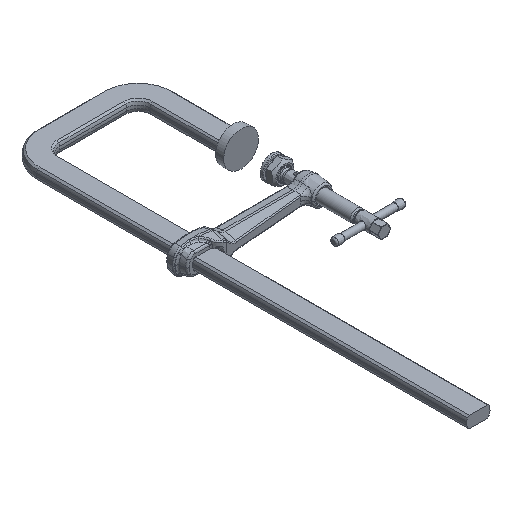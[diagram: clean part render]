
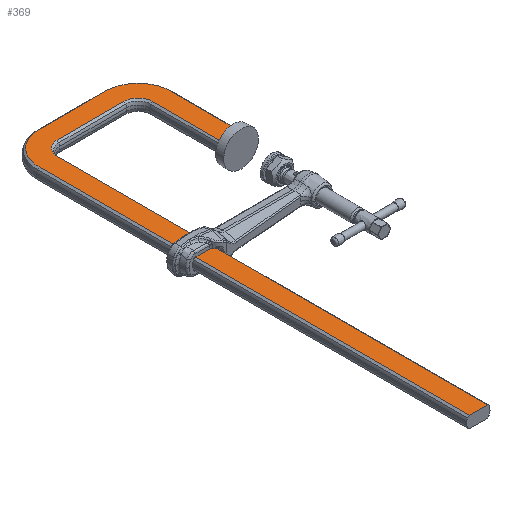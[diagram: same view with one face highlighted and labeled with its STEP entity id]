
A CAD part, isometric view. The second image highlights one B-rep face of the part: STEP entity #369.
In plain terms, the highlighted free-form (B-spline) face has degree [1, 1] with [2, 2] control points.
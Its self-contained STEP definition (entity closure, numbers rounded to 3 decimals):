
#69=CARTESIAN_POINT('',(15.561,-366.,10.));
#70=VERTEX_POINT('',#69);
#76=CARTESIAN_POINT('',(-15.561,-366.,10.));
#77=VERTEX_POINT('',#76);
#78=CARTESIAN_POINT('',(15.561,-366.,10.));
#79=CARTESIAN_POINT('',(-15.561,-366.,10.));
#80=B_SPLINE_CURVE_WITH_KNOTS('',1,(#78,#79),.POLYLINE_FORM.,.F.,.U.,(2,2),(0.028,0.158),.UNSPECIFIED.);
#81=EDGE_CURVE('',#70,#77,#80,.T.);
#266=CARTESIAN_POINT('',(179.439,256.067,10.));
#267=VERTEX_POINT('',#266);
#273=CARTESIAN_POINT('',(179.439,374.067,10.));
#274=VERTEX_POINT('',#273);
#275=CARTESIAN_POINT('',(179.439,256.067,10.));
#276=CARTESIAN_POINT('',(179.439,374.067,10.));
#277=B_SPLINE_CURVE_WITH_KNOTS('',1,(#275,#276),.POLYLINE_FORM.,.F.,.U.,(2,2),(0.041,1.),.UNSPECIFIED.);
#278=EDGE_CURVE('',#267,#274,#277,.T.);
#288=CARTESIAN_POINT('',(-22.345,-542.556,10.));
#289=CARTESIAN_POINT('',(-22.345,442.517,10.));
#290=CARTESIAN_POINT('',(217.345,-542.556,10.));
#291=CARTESIAN_POINT('',(217.345,442.517,10.));
#292=B_SPLINE_SURFACE_WITH_KNOTS('',1,1,((#288,#289),(#290,#291)),.PLANE_SURF.,.F.,.F.,.U.,(2,2),(2,2),(0.,1.),(-1.163,1.),.UNSPECIFIED.);
#293=CARTESIAN_POINT('',(155.,398.506,10.));
#294=VERTEX_POINT('',#293);
#295=CARTESIAN_POINT('',(155.,398.506,10.));
#296=CARTESIAN_POINT('',(165.123,398.506,10.));
#297=CARTESIAN_POINT('',(172.281,391.348,10.));
#298=CARTESIAN_POINT('',(179.439,384.19,10.));
#299=CARTESIAN_POINT('',(179.439,374.067,10.));
#300=(BOUNDED_CURVE()B_SPLINE_CURVE(2,(#295,#296,#297,#298,#299),.CIRCULAR_ARC.,.F.,.U.)B_SPLINE_CURVE_WITH_KNOTS((3,2,3),(0.,0.5,1.),.UNSPECIFIED.)CURVE()GEOMETRIC_REPRESENTATION_ITEM()RATIONAL_B_SPLINE_CURVE((1.,0.924,1.,0.924,1.))REPRESENTATION_ITEM(''));
#301=EDGE_CURVE('',#294,#274,#300,.T.);
#302=ORIENTED_EDGE('',*,*,#301,.T.);
#303=ORIENTED_EDGE('',*,*,#278,.F.);
#304=CARTESIAN_POINT('',(210.561,256.067,10.));
#305=VERTEX_POINT('',#304);
#306=CARTESIAN_POINT('',(179.439,256.067,10.));
#307=CARTESIAN_POINT('',(210.561,256.067,10.));
#308=B_SPLINE_CURVE_WITH_KNOTS('',1,(#306,#307),.POLYLINE_FORM.,.F.,.U.,(2,2),(0.155,0.271),.UNSPECIFIED.);
#309=EDGE_CURVE('',#267,#305,#308,.T.);
#310=ORIENTED_EDGE('',*,*,#309,.T.);
#311=CARTESIAN_POINT('',(210.561,374.067,10.));
#312=VERTEX_POINT('',#311);
#313=CARTESIAN_POINT('',(210.561,256.067,10.));
#314=CARTESIAN_POINT('',(210.561,374.067,10.));
#315=B_SPLINE_CURVE_WITH_KNOTS('',1,(#313,#314),.POLYLINE_FORM.,.F.,.U.,(2,2),(0.082,0.955),.UNSPECIFIED.);
#316=EDGE_CURVE('',#305,#312,#315,.T.);
#317=ORIENTED_EDGE('',*,*,#316,.T.);
#318=CARTESIAN_POINT('',(155.,429.629,10.));
#319=VERTEX_POINT('',#318);
#320=CARTESIAN_POINT('',(210.561,374.067,10.));
#321=CARTESIAN_POINT('',(210.561,429.629,10.));
#322=CARTESIAN_POINT('',(155.,429.629,10.));
#323=(BOUNDED_CURVE()B_SPLINE_CURVE(2,(#320,#321,#322),.CIRCULAR_ARC.,.F.,.U.)B_SPLINE_CURVE_WITH_KNOTS((3,3),(0.,1.),.UNSPECIFIED.)CURVE()GEOMETRIC_REPRESENTATION_ITEM()RATIONAL_B_SPLINE_CURVE((1.,0.707,1.))REPRESENTATION_ITEM(''));
#324=EDGE_CURVE('',#312,#319,#323,.T.);
#325=ORIENTED_EDGE('',*,*,#324,.T.);
#326=CARTESIAN_POINT('',(40.,429.629,10.));
#327=VERTEX_POINT('',#326);
#328=CARTESIAN_POINT('',(155.,429.629,10.));
#329=CARTESIAN_POINT('',(40.,429.629,10.));
#330=B_SPLINE_CURVE_WITH_KNOTS('',1,(#328,#329),.POLYLINE_FORM.,.F.,.U.,(2,2),(0.045,0.955),.UNSPECIFIED.);
#331=EDGE_CURVE('',#319,#327,#330,.T.);
#332=ORIENTED_EDGE('',*,*,#331,.T.);
#333=CARTESIAN_POINT('',(-15.561,374.067,10.));
#334=VERTEX_POINT('',#333);
#335=CARTESIAN_POINT('',(40.,429.629,10.));
#336=CARTESIAN_POINT('',(-15.561,429.629,10.));
#337=CARTESIAN_POINT('',(-15.561,374.067,10.));
#338=(BOUNDED_CURVE()B_SPLINE_CURVE(2,(#335,#336,#337),.CIRCULAR_ARC.,.F.,.U.)B_SPLINE_CURVE_WITH_KNOTS((3,3),(0.,1.),.UNSPECIFIED.)CURVE()GEOMETRIC_REPRESENTATION_ITEM()RATIONAL_B_SPLINE_CURVE((1.,0.707,1.))REPRESENTATION_ITEM(''));
#339=EDGE_CURVE('',#327,#334,#338,.T.);
#340=ORIENTED_EDGE('',*,*,#339,.T.);
#341=CARTESIAN_POINT('',(-15.561,374.067,10.));
#342=CARTESIAN_POINT('',(-15.561,-366.,10.));
#343=B_SPLINE_CURVE_WITH_KNOTS('',1,(#341,#342),.POLYLINE_FORM.,.F.,.U.,(2,2),(0.02,0.814),.UNSPECIFIED.);
#344=EDGE_CURVE('',#334,#77,#343,.T.);
#345=ORIENTED_EDGE('',*,*,#344,.T.);
#346=ORIENTED_EDGE('',*,*,#81,.F.);
#347=CARTESIAN_POINT('',(15.561,374.067,10.));
#348=VERTEX_POINT('',#347);
#349=CARTESIAN_POINT('',(15.561,-366.,10.));
#350=CARTESIAN_POINT('',(15.561,374.067,10.));
#351=B_SPLINE_CURVE_WITH_KNOTS('',1,(#349,#350),.POLYLINE_FORM.,.F.,.U.,(2,2),(0.02,0.814),.UNSPECIFIED.);
#352=EDGE_CURVE('',#70,#348,#351,.T.);
#353=ORIENTED_EDGE('',*,*,#352,.T.);
#354=CARTESIAN_POINT('',(40.,398.506,10.));
#355=VERTEX_POINT('',#354);
#356=CARTESIAN_POINT('',(15.561,374.067,10.));
#357=CARTESIAN_POINT('',(15.561,398.506,10.));
#358=CARTESIAN_POINT('',(40.,398.506,10.));
#359=(BOUNDED_CURVE()B_SPLINE_CURVE(2,(#356,#357,#358),.CIRCULAR_ARC.,.F.,.U.)B_SPLINE_CURVE_WITH_KNOTS((3,3),(0.,1.),.UNSPECIFIED.)CURVE()GEOMETRIC_REPRESENTATION_ITEM()RATIONAL_B_SPLINE_CURVE((1.,0.707,1.))REPRESENTATION_ITEM(''));
#360=EDGE_CURVE('',#348,#355,#359,.T.);
#361=ORIENTED_EDGE('',*,*,#360,.T.);
#362=CARTESIAN_POINT('',(40.,398.506,10.));
#363=CARTESIAN_POINT('',(155.,398.506,10.));
#364=B_SPLINE_CURVE_WITH_KNOTS('',1,(#362,#363),.POLYLINE_FORM.,.F.,.U.,(2,2),(0.045,0.955),.UNSPECIFIED.);
#365=EDGE_CURVE('',#355,#294,#364,.T.);
#366=ORIENTED_EDGE('',*,*,#365,.T.);
#367=EDGE_LOOP('',(#302,#303,#310,#317,#325,#332,#340,#345,#346,#353,#361,#366));
#368=FACE_OUTER_BOUND('',#367,.T.);
#369=ADVANCED_FACE('',(#368),#292,.T.);
